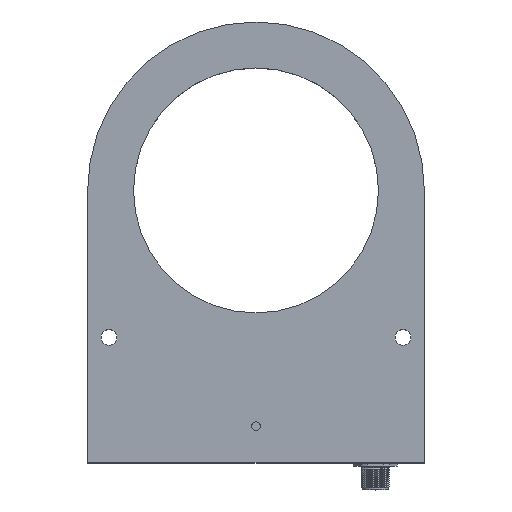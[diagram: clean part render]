
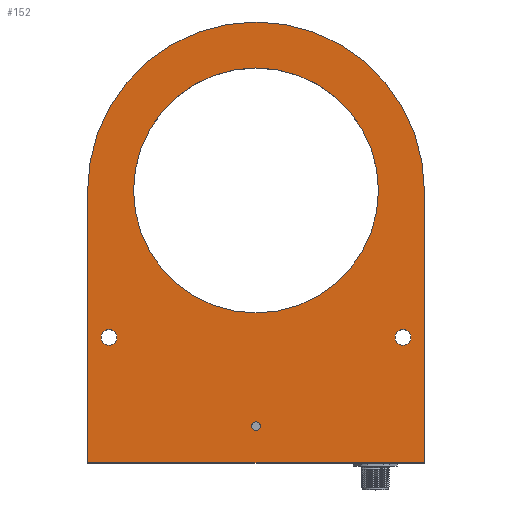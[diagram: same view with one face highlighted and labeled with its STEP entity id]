
A CAD part, top view. The second image highlights one B-rep face of the part: STEP entity #152.
In plain terms, the highlighted planar face has unit normal (0, 0, 1).
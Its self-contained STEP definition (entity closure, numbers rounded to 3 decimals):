
#68=CARTESIAN_POINT('',(45.874,54.65,32.0));
#69=DIRECTION('',(0.0,0.0,1.0));
#70=DIRECTION('',(1.0,0.0,0.0));
#71=AXIS2_PLACEMENT_3D('',#68,#69,#70);
#72=PLANE('',#71);
#73=CARTESIAN_POINT('',(-22.876,-24.616,32.0));
#74=VERTEX_POINT('',#73);
#75=CARTESIAN_POINT('',(-22.876,86.634,32.0));
#76=VERTEX_POINT('',#75);
#77=CARTESIAN_POINT('',(-22.876,-24.616,32.0));
#78=DIRECTION('',(0.0,1.0,0.0));
#79=VECTOR('',#78,111.25);
#80=LINE('',#77,#79);
#81=EDGE_CURVE('',#74,#76,#80,.T.);
#82=ORIENTED_EDGE('',*,*,#81,.F.);
#83=CARTESIAN_POINT('',(114.624,-24.616,32.0));
#84=VERTEX_POINT('',#83);
#85=CARTESIAN_POINT('',(114.624,-24.616,32.0));
#86=DIRECTION('',(-1.0,0.0,0.0));
#87=VECTOR('',#86,137.5);
#88=LINE('',#85,#87);
#89=EDGE_CURVE('',#84,#74,#88,.T.);
#90=ORIENTED_EDGE('',*,*,#89,.F.);
#91=CARTESIAN_POINT('',(114.624,86.634,32.0));
#92=VERTEX_POINT('',#91);
#93=CARTESIAN_POINT('',(114.624,86.634,32.0));
#94=DIRECTION('',(0.0,-1.0,0.0));
#95=VECTOR('',#94,111.25);
#96=LINE('',#93,#95);
#97=EDGE_CURVE('',#92,#84,#96,.T.);
#98=ORIENTED_EDGE('',*,*,#97,.F.);
#99=CARTESIAN_POINT('',(45.874,86.634,32.0));
#100=DIRECTION('',(0.0,0.0,-1.0));
#101=DIRECTION('',(1.0,0.0,0.0));
#102=AXIS2_PLACEMENT_3D('',#99,#100,#101);
#103=CIRCLE('',#102,68.75);
#104=EDGE_CURVE('',#76,#92,#103,.T.);
#105=ORIENTED_EDGE('',*,*,#104,.F.);
#106=EDGE_LOOP('',(#82,#90,#98,#105));
#107=FACE_OUTER_BOUND('',#106,.T.);
#108=CARTESIAN_POINT('',(47.624,-9.616,32.0));
#109=VERTEX_POINT('',#108);
#110=CARTESIAN_POINT('',(45.874,-9.616,32.0));
#111=DIRECTION('',(0.0,0.0,-1.0));
#112=DIRECTION('',(-1.0,0.0,0.0));
#113=AXIS2_PLACEMENT_3D('',#110,#111,#112);
#114=CIRCLE('',#113,1.75);
#115=EDGE_CURVE('',#109,#109,#114,.T.);
#116=ORIENTED_EDGE('',*,*,#115,.T.);
#117=EDGE_LOOP('',(#116));
#118=FACE_BOUND('',#117,.T.);
#119=CARTESIAN_POINT('',(109.124,26.634,32.0));
#120=VERTEX_POINT('',#119);
#121=CARTESIAN_POINT('',(105.874,26.634,32.0));
#122=DIRECTION('',(0.0,0.0,-1.0));
#123=DIRECTION('',(-1.0,0.0,0.0));
#124=AXIS2_PLACEMENT_3D('',#121,#122,#123);
#125=CIRCLE('',#124,3.25);
#126=EDGE_CURVE('',#120,#120,#125,.T.);
#127=ORIENTED_EDGE('',*,*,#126,.T.);
#128=EDGE_LOOP('',(#127));
#129=FACE_BOUND('',#128,.T.);
#130=CARTESIAN_POINT('',(-10.876,26.634,32.0));
#131=VERTEX_POINT('',#130);
#132=CARTESIAN_POINT('',(-14.126,26.634,32.0));
#133=DIRECTION('',(0.0,0.0,-1.0));
#134=DIRECTION('',(-1.0,0.0,0.0));
#135=AXIS2_PLACEMENT_3D('',#132,#133,#134);
#136=CIRCLE('',#135,3.25);
#137=EDGE_CURVE('',#131,#131,#136,.T.);
#138=ORIENTED_EDGE('',*,*,#137,.T.);
#139=EDGE_LOOP('',(#138));
#140=FACE_BOUND('',#139,.T.);
#141=CARTESIAN_POINT('',(95.874,86.634,32.0));
#142=VERTEX_POINT('',#141);
#143=CARTESIAN_POINT('',(45.874,86.634,32.0));
#144=DIRECTION('',(0.0,0.0,-1.0));
#145=DIRECTION('',(-1.0,0.0,0.0));
#146=AXIS2_PLACEMENT_3D('',#143,#144,#145);
#147=CIRCLE('',#146,50.0);
#148=EDGE_CURVE('',#142,#142,#147,.T.);
#149=ORIENTED_EDGE('',*,*,#148,.T.);
#150=EDGE_LOOP('',(#149));
#151=FACE_BOUND('',#150,.T.);
#152=ADVANCED_FACE('',(#107,#118,#129,#140,#151),#72,.T.);
